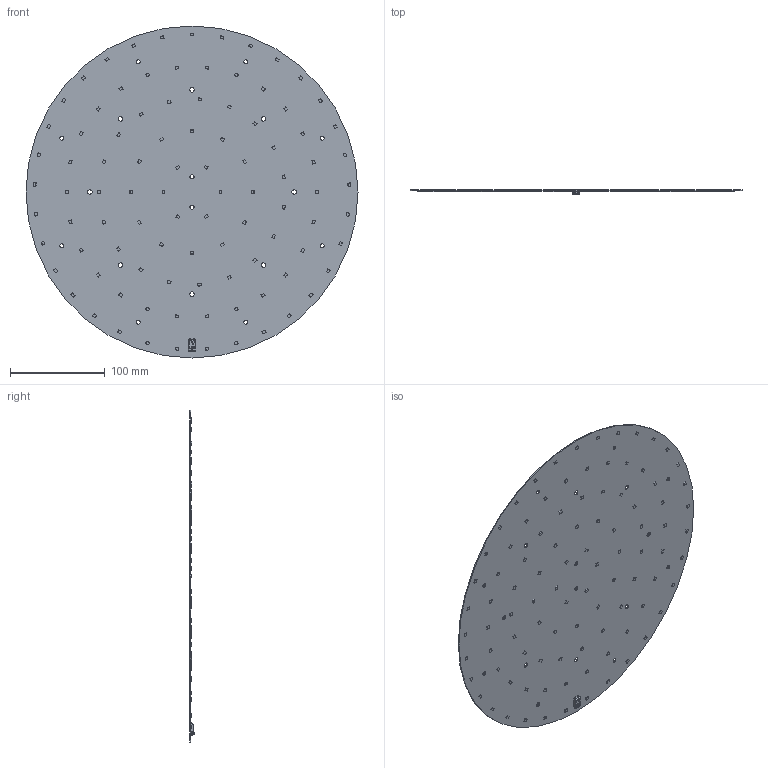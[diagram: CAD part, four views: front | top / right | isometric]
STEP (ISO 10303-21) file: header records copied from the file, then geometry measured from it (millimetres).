
FILE_DESCRIPTION(/* description */ ('Unknown'),/* implementation_level */ '2;1');
FILE_NAME(/* name */ 'RdLED 350mm 4000lm 36V&144V G3 (96x2835) sh-000 2020-04-24',/* time_stamp */ '2020-04-24T15:02:05+02:00',/* author */ ('Unknown'),/* organization */ ('Unknown'),/* preprocessor_version */ 'ST-DEVELOPER v16.7',/* originating_system */ 'Solid Edge',/* authorisation */ 'Unknown');
FILE_SCHEMA (('AUTOMOTIVE_DESIGN {1 0 10303 214 3 1 1}'));
Products named in the file (1): RdLED 350mm 4000lm 36V&144V G3 (96x2835) sh-000 2020-04-24
Bounding box: 350 x 4.4 x 350 mm (x, y, z)
Volume: 96979.6 mm3; surface area: 194541.2 mm2
Topology: 1 solids, 1 shells, 1957 faces, 5129 edges, 3368 vertices
Faces by surface type: plane 1700, cylinder 129, bspline 87, cone 20, torus 11, sphere 10
Full cylindrical faces by diameter (mm): 4.3 x10, 350 x1
Entity records: 74944 total; most frequent: CARTESIAN_POINT 13834, ORIENTED_EDGE 10178, DIRECTION 8746, EDGE_CURVE 5089, LINE 4542, VECTOR 4542, VERTEX_POINT 3353, EDGE_LOOP 2212
